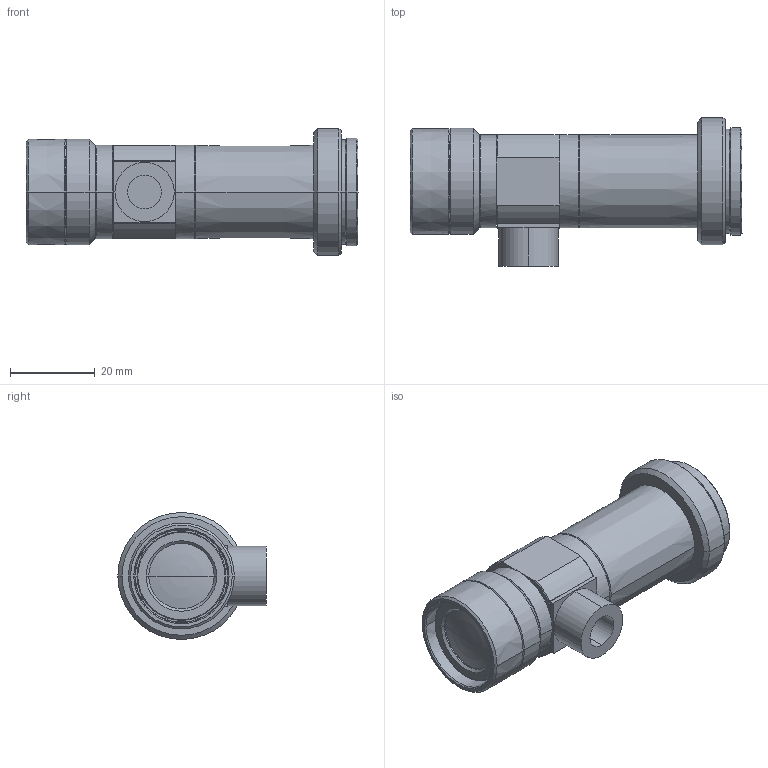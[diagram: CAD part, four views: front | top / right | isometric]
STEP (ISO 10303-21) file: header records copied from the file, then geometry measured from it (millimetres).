
FILE_DESCRIPTION (( 'STEP AP203' ), '1' );
FILE_NAME ('VS-TCH1.5-65CO.STEP', '2015-03-04T09:02:20', ( 'miura_vst' ), ( '' ), 'SwSTEP 2.0', 'SolidWorks 2015', '' );
FILE_SCHEMA (( 'CONFIG_CONTROL_DESIGN' ));
Length unit declared in the file: millimetre
Products named in the file (1): VS-TCH1.5-65CO
Bounding box: 78.4 x 35 x 30 mm (x, y, z)
Volume: 28387.1 mm3; surface area: 11533.4 mm2
Topology: 2 solids, 2 shells, 140 faces, 311 edges, 184 vertices
Faces by surface type: cone 72, cylinder 34, plane 30, torus 4
Entity records: 3932 total; most frequent: DIRECTION 727, CARTESIAN_POINT 692, ORIENTED_EDGE 614, EDGE_CURVE 307, AXIS2_PLACEMENT_3D 299, VERTEX_POINT 184, CIRCLE 158, EDGE_LOOP 155
